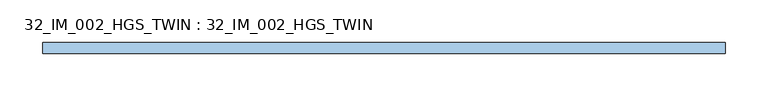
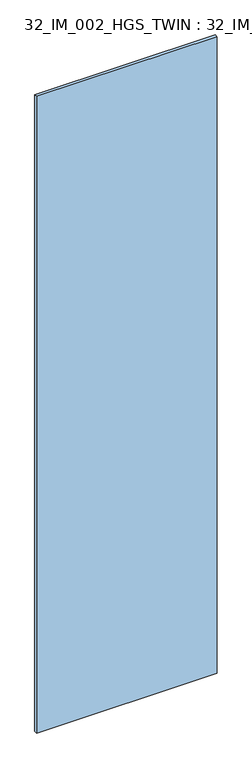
"""IFC4 building model written with IfcOpenShell, lengths in millimetres: window geometry, 32_IM_002_HGS_TWIN : 32_IM_002_HGS_TWIN."""

from ifc_helpers import new_model, si_unit, origin, origin_with_axes, place, context, project, spatial, polyline, outline, extrude, source, transform, mapped, element, save


def window_32_im_002_hgs_twin_32_im_002_hgs_twin_b3315b9b(model_context):
    return source(origin(), model_context, "Body", "SweptSolid", [
        extrude(outline(polyline([(397.15, 6.4), (397.15, -6.4), (-397.15, -6.4), (-397.15, 6.4), (397.15, 6.4)])), origin_with_axes(), (0.0, 0.0, 1.0), 2956.0),
    ])


if __name__ == "__main__":
    model = new_model("IFC4")
    model_context = context("Model", 3, world=origin())
    ifc_project = project(units=[si_unit("LENGTHUNIT", "METRE", prefix="MILLI")], contexts=[model_context])
    site = spatial("IfcSite", under=ifc_project)
    building = spatial("IfcBuilding", under=site)
    placement = place(None, origin())
    window_32_im_002_hgs_twin_32_im_002_hgs_twin_shape = window_32_im_002_hgs_twin_32_im_002_hgs_twin_b3315b9b(model_context)
    element("IfcWindow", 1, ObjectType="32_IM_002_HGS_TWIN : 32_IM_002_HGS_TWIN", at=placement, inside=building, context=model_context, shape_type="MappedRepresentation", body=[
        mapped(window_32_im_002_hgs_twin_32_im_002_hgs_twin_shape, transform((0.0, 0.0, 0.0), x_axis=(1.0, 0.0, 0.0), y_axis=(0.0, 1.0, 0.0), z_axis=(0.0, 0.0, 1.0))),
    ])
    save(model, "model.ifc")
